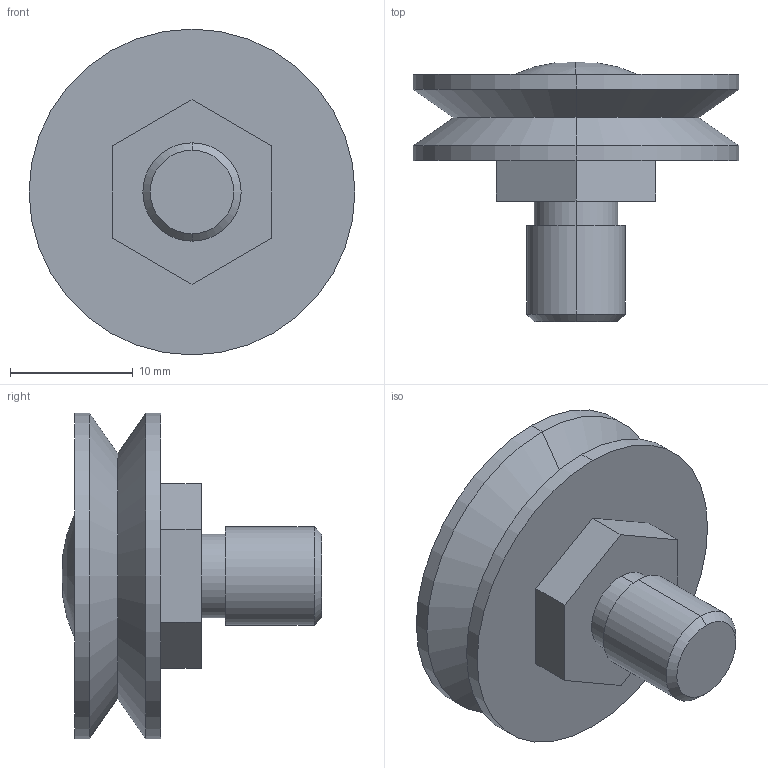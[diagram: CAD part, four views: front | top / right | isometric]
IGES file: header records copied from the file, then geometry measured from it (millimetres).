
Start section: 3D InterOp IGES (v. 2019 1.0.2), Spatial Corp. Copyright (c) 1999-2017.
Global section: file name: GBHJ 265 C.igs; native system: Spatial Corp.; preprocessor: 3D InterOp GENERIC/IGES 3.0; author: Noname; organization: Noname; date: 20220628.170607; units: millimetre
Bounding box: 26.5 x 21.1 x 26.5 mm (x, y, z)
Surface area: 2297.1 mm2 (no closed solid volume)
Topology: 0 solids, 0 shells, 27 faces, 114 edges, 112 vertices
Faces by surface type: revolution 14, extrusion 11, bspline 2
